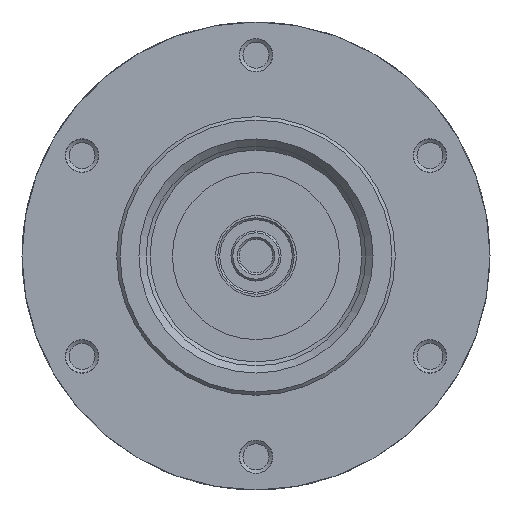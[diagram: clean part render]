
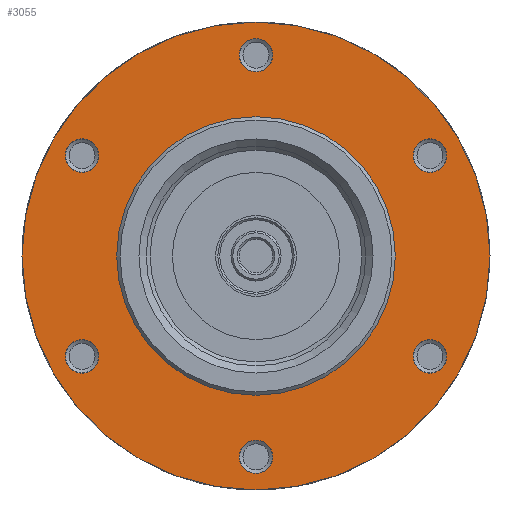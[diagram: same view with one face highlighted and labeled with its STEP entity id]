
A CAD part, left-side view. The second image highlights one B-rep face of the part: STEP entity #3055.
In plain terms, the highlighted planar face has unit normal (-1, 0, 0).
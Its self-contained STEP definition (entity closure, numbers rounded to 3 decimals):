
#2940=CARTESIAN_POINT('',(285.155,292.998,-160.086));
#2941=VERTEX_POINT('',#2940);
#2942=CARTESIAN_POINT('',(285.155,311.184,-170.586));
#2943=VERTEX_POINT('',#2942);
#2944=CARTESIAN_POINT('',(285.155,292.998,-181.086));
#2945=DIRECTION('',(1.,0.,0.));
#2946=DIRECTION('',(0.,0.,1.));
#2947=AXIS2_PLACEMENT_3D('',#2944,#2945,#2946);
#2948=CIRCLE('',#2947,21.);
#2949=EDGE_CURVE('',#2941,#2943,#2948,.T.);
#2950=ORIENTED_EDGE('',*,*,#2949,.F.);
#2951=EDGE_CURVE('',#2943,#2941,#2948,.T.);
#2952=ORIENTED_EDGE('',*,*,#2951,.F.);
#2953=EDGE_LOOP('',(#2950,#2952));
#2954=FACE_OUTER_BOUND('',#2953,.T.);
#2955=CARTESIAN_POINT('',(285.155,275.901,-190.099));
#2956=VERTEX_POINT('',#2955);
#2957=CARTESIAN_POINT('',(285.155,277.387,-190.099));
#2958=DIRECTION('',(1.,0.,0.));
#2959=DIRECTION('',(0.,1.,0.));
#2960=AXIS2_PLACEMENT_3D('',#2957,#2958,#2959);
#2961=CIRCLE('',#2960,1.487);
#2962=EDGE_CURVE('',#2956,#2956,#2961,.T.);
#2963=ORIENTED_EDGE('',*,*,#2962,.T.);
#2964=EDGE_LOOP('',(#2963));
#2965=FACE_BOUND('',#2964,.T.);
#2966=CARTESIAN_POINT('',(285.155,292.254,-200.399));
#2967=VERTEX_POINT('',#2966);
#2968=CARTESIAN_POINT('',(285.155,292.998,-199.111));
#2969=DIRECTION('',(1.,0.,0.));
#2970=DIRECTION('',(0.,0.5,0.866));
#2971=AXIS2_PLACEMENT_3D('',#2968,#2969,#2970);
#2972=CIRCLE('',#2971,1.487);
#2973=EDGE_CURVE('',#2967,#2967,#2972,.T.);
#2974=ORIENTED_EDGE('',*,*,#2973,.T.);
#2975=EDGE_LOOP('',(#2974));
#2976=FACE_BOUND('',#2975,.T.);
#2977=CARTESIAN_POINT('',(285.155,309.351,-191.386));
#2978=VERTEX_POINT('',#2977);
#2979=CARTESIAN_POINT('',(285.155,307.864,-188.811));
#2980=VERTEX_POINT('',#2979);
#2981=CARTESIAN_POINT('',(285.155,308.608,-190.099));
#2982=DIRECTION('',(1.,0.,0.));
#2983=DIRECTION('',(0.,-0.5,0.866));
#2984=AXIS2_PLACEMENT_3D('',#2981,#2982,#2983);
#2985=CIRCLE('',#2984,1.487);
#2986=EDGE_CURVE('',#2978,#2980,#2985,.T.);
#2987=ORIENTED_EDGE('',*,*,#2986,.T.);
#2988=CARTESIAN_POINT('',(285.155,308.608,-190.099));
#2989=DIRECTION('',(1.,0.,0.));
#2990=DIRECTION('',(0.,-0.5,0.866));
#2991=AXIS2_PLACEMENT_3D('',#2988,#2989,#2990);
#2992=CIRCLE('',#2991,1.487);
#2993=EDGE_CURVE('',#2980,#2978,#2992,.T.);
#2994=ORIENTED_EDGE('',*,*,#2993,.T.);
#2995=EDGE_LOOP('',(#2987,#2994));
#2996=FACE_BOUND('',#2995,.T.);
#2997=CARTESIAN_POINT('',(285.155,310.094,-172.074));
#2998=VERTEX_POINT('',#2997);
#2999=CARTESIAN_POINT('',(285.155,308.608,-172.074));
#3000=DIRECTION('',(1.,0.,0.));
#3001=DIRECTION('',(0.,-1.,0.));
#3002=AXIS2_PLACEMENT_3D('',#2999,#3000,#3001);
#3003=CIRCLE('',#3002,1.487);
#3004=EDGE_CURVE('',#2998,#2998,#3003,.T.);
#3005=ORIENTED_EDGE('',*,*,#3004,.T.);
#3006=EDGE_LOOP('',(#3005));
#3007=FACE_BOUND('',#3006,.T.);
#3008=CARTESIAN_POINT('',(285.155,293.741,-161.774));
#3009=VERTEX_POINT('',#3008);
#3010=CARTESIAN_POINT('',(285.155,292.998,-163.061));
#3011=DIRECTION('',(1.,0.,0.));
#3012=DIRECTION('',(0.,-0.5,-0.866));
#3013=AXIS2_PLACEMENT_3D('',#3010,#3011,#3012);
#3014=CIRCLE('',#3013,1.487);
#3015=EDGE_CURVE('',#3009,#3009,#3014,.T.);
#3016=ORIENTED_EDGE('',*,*,#3015,.T.);
#3017=EDGE_LOOP('',(#3016));
#3018=FACE_BOUND('',#3017,.T.);
#3019=CARTESIAN_POINT('',(285.155,276.644,-170.786));
#3020=VERTEX_POINT('',#3019);
#3021=CARTESIAN_POINT('',(285.155,278.131,-173.361));
#3022=VERTEX_POINT('',#3021);
#3023=CARTESIAN_POINT('',(285.155,277.387,-172.074));
#3024=DIRECTION('',(1.,0.,0.));
#3025=DIRECTION('',(0.,0.5,-0.866));
#3026=AXIS2_PLACEMENT_3D('',#3023,#3024,#3025);
#3027=CIRCLE('',#3026,1.487);
#3028=EDGE_CURVE('',#3020,#3022,#3027,.T.);
#3029=ORIENTED_EDGE('',*,*,#3028,.T.);
#3030=CARTESIAN_POINT('',(285.155,277.387,-172.074));
#3031=DIRECTION('',(1.,0.,0.));
#3032=DIRECTION('',(0.,0.5,-0.866));
#3033=AXIS2_PLACEMENT_3D('',#3030,#3031,#3032);
#3034=CIRCLE('',#3033,1.487);
#3035=EDGE_CURVE('',#3022,#3020,#3034,.T.);
#3036=ORIENTED_EDGE('',*,*,#3035,.T.);
#3037=EDGE_LOOP('',(#3029,#3036));
#3038=FACE_BOUND('',#3037,.T.);
#3039=CARTESIAN_POINT('',(285.155,292.998,-168.586));
#3040=VERTEX_POINT('',#3039);
#3041=CARTESIAN_POINT('',(285.155,292.998,-181.086));
#3042=DIRECTION('',(1.,0.,0.));
#3043=DIRECTION('',(0.,0.,1.));
#3044=AXIS2_PLACEMENT_3D('',#3041,#3042,#3043);
#3045=CIRCLE('',#3044,12.5);
#3046=EDGE_CURVE('',#3040,#3040,#3045,.T.);
#3047=ORIENTED_EDGE('',*,*,#3046,.T.);
#3048=EDGE_LOOP('',(#3047));
#3049=FACE_BOUND('',#3048,.T.);
#3050=CARTESIAN_POINT('',(285.155,292.998,-164.336));
#3051=DIRECTION('',(-1.,0.,0.));
#3052=DIRECTION('',(0.,0.,-1.));
#3053=AXIS2_PLACEMENT_3D('',#3050,#3051,#3052);
#3054=PLANE('',#3053);
#3055=ADVANCED_FACE('',(#2954,#2965,#2976,#2996,#3007,#3018,#3038,#3049),#3054,.T.);
